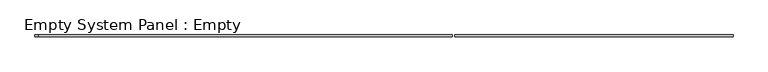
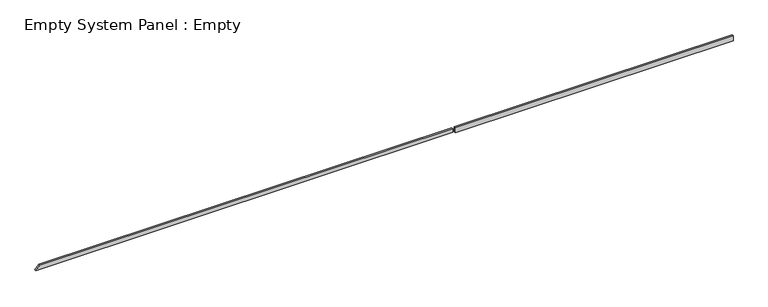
"""IFC4 building model written with IfcOpenShell, lengths in millimetres: plate geometry, Empty System Panel : Empty."""

from ifc_helpers import new_model, si_unit, frame, origin, place, context, project, spatial, polyline, outline, extrude, source, transform, mapped, element, save


def empty_system_panel_empty_4bf87af0(model_context):
    return source(origin(), model_context, "Body", "SweptSolid", [
        extrude(outline(polyline([(77.3061629, -20447.8042503), (77.3061629, 4002.8042503), (310.0, 4002.8042503), (310.0, -20217.6848557), (77.3061629, -20447.8042503)])), frame((0.0, -50.0, 0.0), z_axis=(0.0, 1.0, 0.0), x_axis=(0.0, 0.0, 1.0)), (0.0, 0.0, 1.0), 100.0),
        extrude(outline(polyline([(0.0, 4152.8042503), (0.0, 20447.8042503), (22.3061629, 20447.8042503), (310.0, 20447.8042503), (310.0, 4152.8042503), (0.0, 4152.8042503)])), frame((0.0, -50.0, 0.0), z_axis=(0.0, 1.0, 0.0), x_axis=(0.0, 0.0, 1.0)), (0.0, 0.0, 1.0), 100.0),
    ])


if __name__ == "__main__":
    model = new_model("IFC4")
    model_context = context("Model", 3, world=origin())
    ifc_project = project(units=[si_unit("LENGTHUNIT", "METRE", prefix="MILLI")], contexts=[model_context])
    site = spatial("IfcSite", under=ifc_project)
    building = spatial("IfcBuilding", under=site)
    placement = place(None, origin())
    empty_system_panel_empty_shape = empty_system_panel_empty_4bf87af0(model_context)
    element("IfcPlate", 1, ObjectType="Empty System Panel : Empty", at=placement, inside=building, context=model_context, shape_type="MappedRepresentation", body=[
        mapped(empty_system_panel_empty_shape, transform((0.0, 0.0, 0.0), x_axis=(1.0, 0.0, 0.0), y_axis=(0.0, 1.0, 0.0), z_axis=(0.0, 0.0, 1.0))),
    ])
    save(model, "model.ifc")
